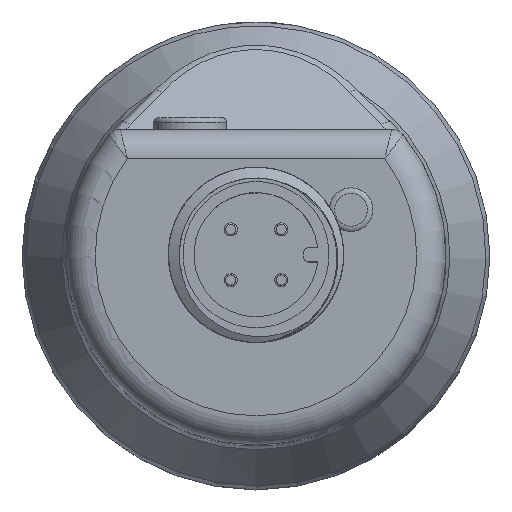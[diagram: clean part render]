
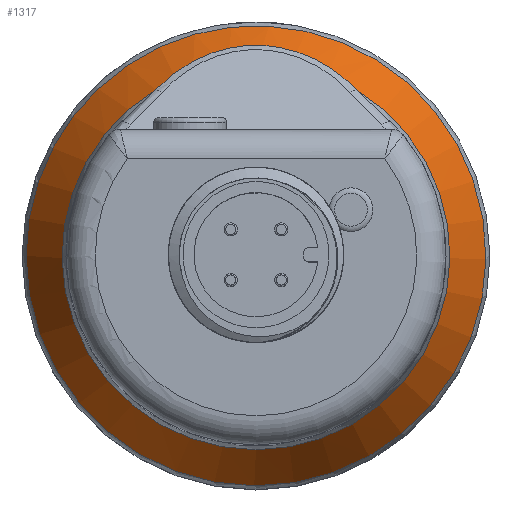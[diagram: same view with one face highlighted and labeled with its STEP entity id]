
A CAD part, top view. The second image highlights one B-rep face of the part: STEP entity #1317.
In plain terms, the highlighted conical face has half-angle 30 degrees and reference radius 13 mm.
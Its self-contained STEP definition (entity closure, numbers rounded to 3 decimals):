
#71=CONICAL_SURFACE('',#4498,13.,30.);
#152=B_SPLINE_CURVE_WITH_KNOTS('',3,(#8091,#8092,#8093,#8094,#8095,#8096),
 .UNSPECIFIED.,.F.,.F.,(4,2,4),(0.,0.5,1.),.UNSPECIFIED.);
#1069=FACE_BOUND('',#1940,.T.);
#1070=FACE_BOUND('',#1941,.T.);
#1317=ADVANCED_FACE('',(#1069,#1070),#71,.T.);
#1940=EDGE_LOOP('',(#2638,#2639));
#1941=EDGE_LOOP('',(#2640));
#2638=ORIENTED_EDGE('',*,*,#3623,.T.);
#2639=ORIENTED_EDGE('',*,*,#3835,.T.);
#2640=ORIENTED_EDGE('',*,*,#3836,.T.);
#3245=VERTEX_POINT('',#6003);
#3246=VERTEX_POINT('',#6004);
#3386=VERTEX_POINT('',#8098);
#3623=EDGE_CURVE('',#3245,#3246,#4136,.T.);
#3835=EDGE_CURVE('',#3246,#3245,#152,.T.);
#3836=EDGE_CURVE('',#3386,#3386,#4188,.T.);
#4136=CIRCLE('',#4352,13.268);
#4188=CIRCLE('',#4497,15.732);
#4352=AXIS2_PLACEMENT_3D('',#6002,#4881,#4882);
#4497=AXIS2_PLACEMENT_3D('',#8097,#5270,#5271);
#4498=AXIS2_PLACEMENT_3D('',#8099,#5272,#5273);
#4881=DIRECTION('',(0.,0.,-1.));
#4882=DIRECTION('',(1.,0.,0.));
#5270=DIRECTION('',(0.,0.,1.));
#5271=DIRECTION('',(-1.,0.,0.));
#5272=DIRECTION('',(0.,0.,-1.));
#5273=DIRECTION('',(1.,0.,0.));
#6002=CARTESIAN_POINT('',(0.,0.,14.836));
#6003=CARTESIAN_POINT('',(6.871,11.351,14.836));
#6004=CARTESIAN_POINT('',(-6.871,11.351,14.836));
#8091=CARTESIAN_POINT('',(-6.871,11.351,14.836));
#8092=CARTESIAN_POINT('',(-4.962,13.397,13.515));
#8093=CARTESIAN_POINT('',(-2.317,14.41,12.854));
#8094=CARTESIAN_POINT('',(2.292,14.417,12.849));
#8095=CARTESIAN_POINT('',(4.956,13.404,13.511));
#8096=CARTESIAN_POINT('',(6.871,11.351,14.836));
#8097=CARTESIAN_POINT('',(0.,0.,10.568));
#8098=CARTESIAN_POINT('',(-15.732,0.,10.568));
#8099=CARTESIAN_POINT('',(0.,0.,15.3));
